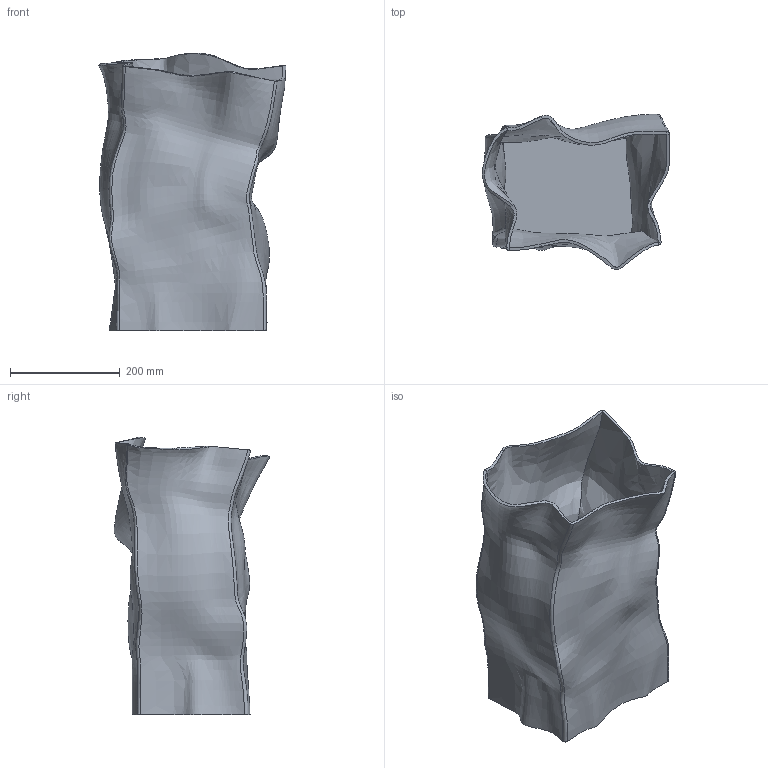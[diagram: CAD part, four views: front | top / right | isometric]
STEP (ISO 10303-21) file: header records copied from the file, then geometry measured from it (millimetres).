
FILE_DESCRIPTION(/* description */ (''),/* implementation_level */ '2;1');
FILE_NAME(/* name */ 'Kami Vase Big',/* time_stamp */ '2023-10-24T13:52:58+02:00',/* author */ (''),/* organization */ (''),/* preprocessor_version */ 'ST-DEVELOPER v15',/* originating_system */ '',/* authorisation */ '');
FILE_SCHEMA (('AUTOMOTIVE_DESIGN'));
Length unit declared in the file: millimetre
Products named in the file (1): Document
Bounding box: 341.31 x 283.11 x 505.66 mm (x, y, z)
Volume: 2571260.3 mm3; surface area: 1032909 mm2
Topology: 2 solids, 2 shells, 29 faces, 62 edges, 36 vertices
Faces by surface type: bspline 22, plane 7
Entity records: 53864 total; most frequent: CARTESIAN_POINT 53436, ORIENTED_EDGE 124, EDGE_CURVE 62, B_SPLINE_CURVE_WITH_KNOTS 50, VERTEX_POINT 36, EDGE_LOOP 30, ADVANCED_FACE 29, FACE_OUTER_BOUND 29
